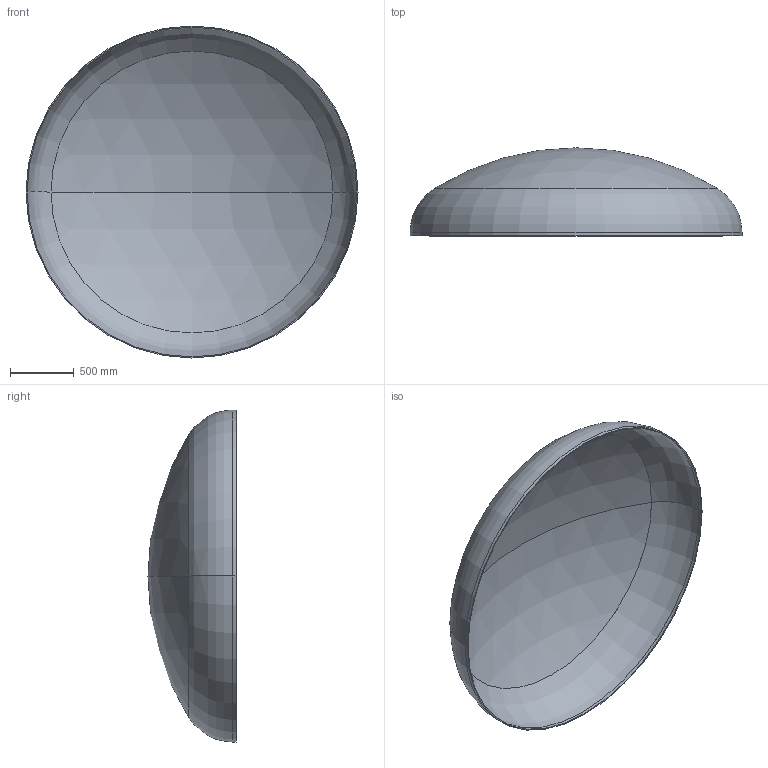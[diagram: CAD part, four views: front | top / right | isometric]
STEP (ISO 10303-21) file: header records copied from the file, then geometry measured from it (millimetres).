
FILE_DESCRIPTION (( 'STEP AP203' ), '1' );
FILE_NAME ('DIN 28013 Korbbogenform_-_Boden DIN 28013 - 2600 x 25 - I - s=8.step', '2016-07-01T15:51:41', ( '' ), ( '' ), 'SwSTEP 2.0', 'SolidWorks 2013', '' );
FILE_SCHEMA (( 'CONFIG_CONTROL_DESIGN' ));
Length unit declared in the file: millimetre
Products named in the file (1): DIN 28013 Korbbogenform_-_Boden DIN 28013 - 2600 x 25 - I - s=8
Bounding box: 2600 x 689.37 x 2600 mm (x, y, z)
Volume: 60208770.9 mm3; surface area: 15117464.7 mm2
Topology: 1 solids, 1 shells, 13 faces, 24 edges, 14 vertices
Faces by surface type: torus 4, cylinder 4, sphere 4, plane 1
Entity records: 407 total; most frequent: DIRECTION 72, CARTESIAN_POINT 52, ORIENTED_EDGE 48, AXIS2_PLACEMENT_3D 34, EDGE_CURVE 24, CIRCLE 20, EDGE_LOOP 14, VERTEX_POINT 14
